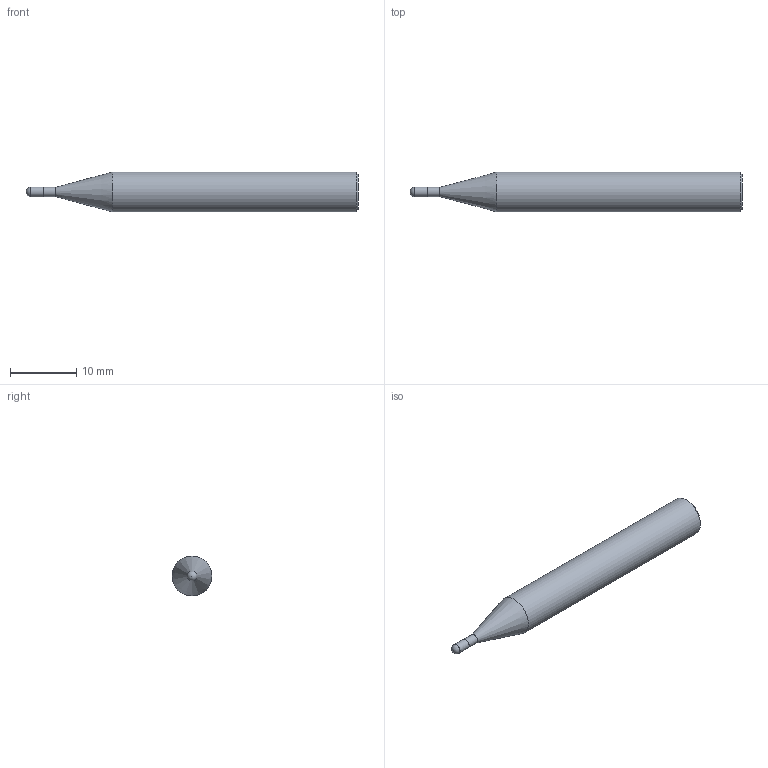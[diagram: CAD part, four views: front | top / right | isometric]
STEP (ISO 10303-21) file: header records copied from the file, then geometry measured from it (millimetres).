
FILE_DESCRIPTION(/* description */ (''),/* implementation_level */ '2;1');
FILE_NAME(/* name */ 'HSXBC4015 0650.stp',/* time_stamp */ '2026-01-27T10:24:11+08:00',/* author */ (''),/* organization */ (''),/* preprocessor_version */ 'ST-DEVELOPER v16',/* originating_system */ 'SIEMENS PLM Software NX 10.0',/* authorisation */ '');
FILE_SCHEMA (('CONFIG_CONTROL_DESIGN'));
Length unit declared in the file: millimetre
Products named in the file (1): HSXBC4015 0650_dxf
Bounding box: 50 x 6 x 6 mm (x, y, z)
Volume: 1155.3 mm3; surface area: 845.5 mm2
Topology: 1 solids, 1 shells, 8 faces, 15 edges, 9 vertices
Faces by surface type: cylinder 3, plane 2, cone 2, sphere 1
Full cylindrical faces by diameter (mm): 1.42 x1, 1.5 x1, 6 x1
Entity records: 238 total; most frequent: DIRECTION 32, CARTESIAN_POINT 23, AXIS2_PLACEMENT_3D 16, EDGE_LOOP 14, ORIENTED_EDGE 14, FACE_BOUND 12, ADVANCED_FACE 8, PERSON_AND_ORGANIZATION 7
